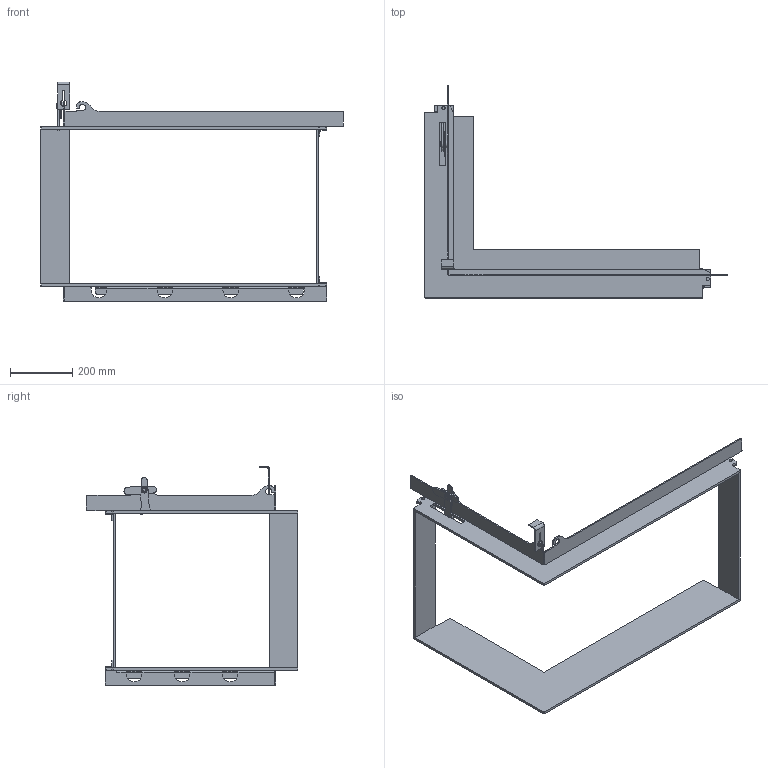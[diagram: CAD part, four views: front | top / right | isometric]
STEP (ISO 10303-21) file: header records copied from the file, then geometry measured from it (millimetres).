
FILE_DESCRIPTION(/* description */ (''),/* implementation_level */ '2;1');
FILE_NAME(/* name */ 'C:\Users\jku\Desktop\Export\Links Einbaurahmen geschraubt.stp',/* time_stamp */ '2019-09-30T07:43:09+02:00',/* author */ ('jku'),/* organization */ (''),/* preprocessor_version */ 'ST-DEVELOPER v17.2',/* originating_system */ 'Autodesk Inventor 2019',/* authorisation */ '');
FILE_SCHEMA (('AUTOMOTIVE_DESIGN { 1 0 10303 214 3 1 1 }'));
Length unit declared in the file: millimetre
Products named in the file (1): 2019-02945
Bounding box: 974.9 x 682.5 x 709 mm (x, y, z)
Volume: 4510759.4 mm3; surface area: 1503529.3 mm2
Topology: 21 solids, 21 shells, 498 faces, 1310 edges, 840 vertices
Faces by surface type: plane 271, cylinder 211, bspline 12, cone 4
Full cylindrical faces by diameter (mm): 10 x1, 10.21 x2, 16 x1, 20 x2, 25 x2
Entity records: 15695 total; most frequent: CARTESIAN_POINT 2901, DIRECTION 2690, ORIENTED_EDGE 2620, EDGE_CURVE 1310, AXIS2_PLACEMENT_3D 917, LINE 856, VECTOR 856, VERTEX_POINT 840
